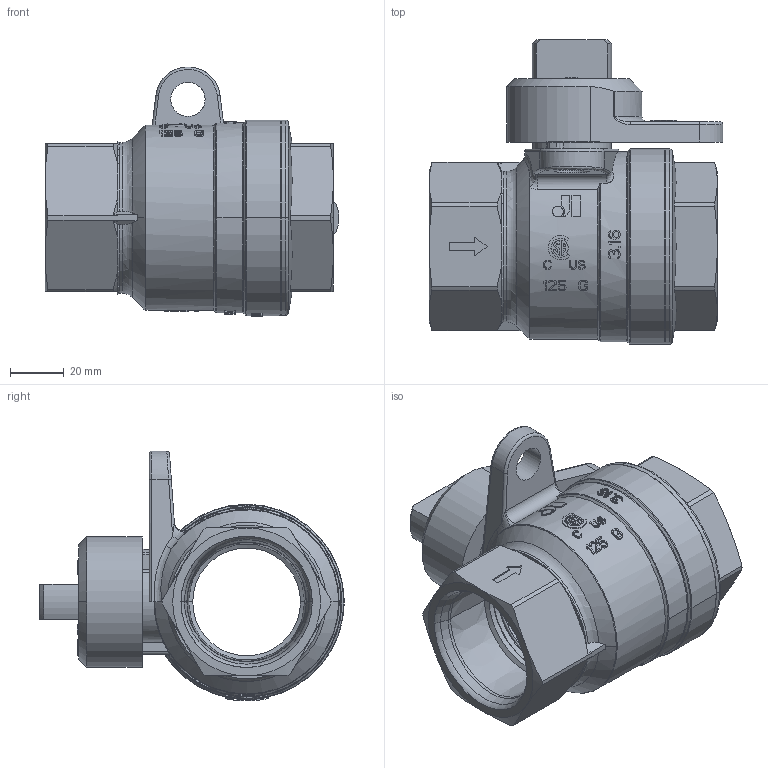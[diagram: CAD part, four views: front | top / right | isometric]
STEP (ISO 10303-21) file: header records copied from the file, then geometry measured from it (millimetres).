
FILE_DESCRIPTION((''),'2;1');
FILE_NAME('175LWN_112_ASM','2018-05-02T',('sergio.dandrea'),(''),'CREO PARAMETRIC BY PTC INC, 2017170','CREO PARAMETRIC BY PTC INC, 2017170','');
FILE_SCHEMA(('CONFIG_CONTROL_DESIGN'));
Length unit declared in the file: millimetre
Products named in the file (12): 93234; SEDE_PTFE_F40; 93239; 88060; 93237; OR_115_AF1; OR_115_AF0; 87185; 93242; 93240; 15169; 175LWN_112_ASM
Assembly tree (12 placements, depth 2):
  175LWN_112_ASM
    93234
    SEDE_PTFE_F40  x2
    93239
    88060
    93237
    OR_115_AF1
    OR_115_AF0
    87185
    93242
    93240
    15169
Bounding box: 109.01 x 113.05 x 92.72 mm (x, y, z)
Volume: 223789.5 mm3; surface area: 112471.8 mm2
Topology: 12 solids, 12 shells, 1457 faces, 3857 edges, 2484 vertices
Faces by surface type: plane 907, cylinder 195, extrusion 127, cone 117, torus 69, revolution 16, sphere 14, bspline 12
Entity records: 47321 total; most frequent: CARTESIAN_POINT 12797, ORIENTED_EDGE 7654, DIRECTION 6261, EDGE_CURVE 3827, VERTEX_POINT 2468, AXIS2_PLACEMENT_3D 2090, VECTOR 2065, LINE 1938
